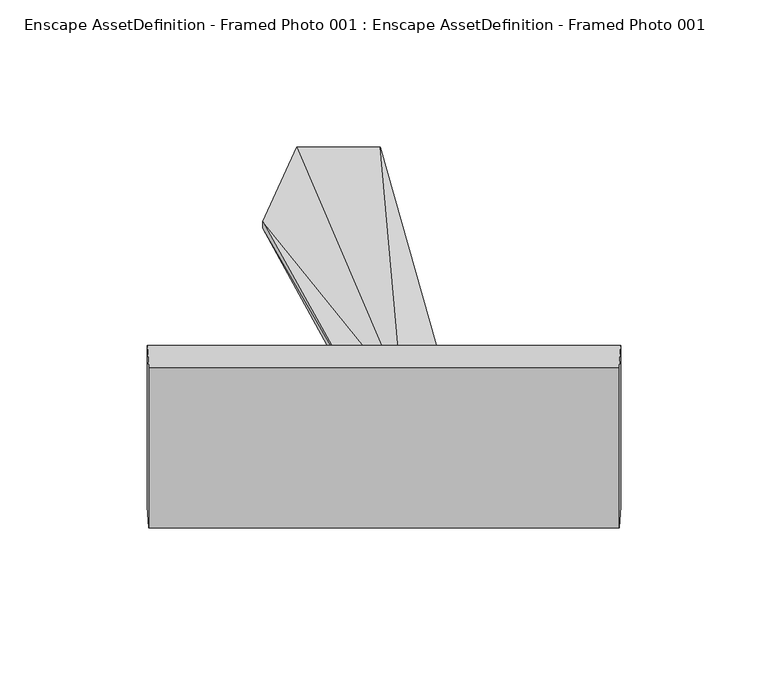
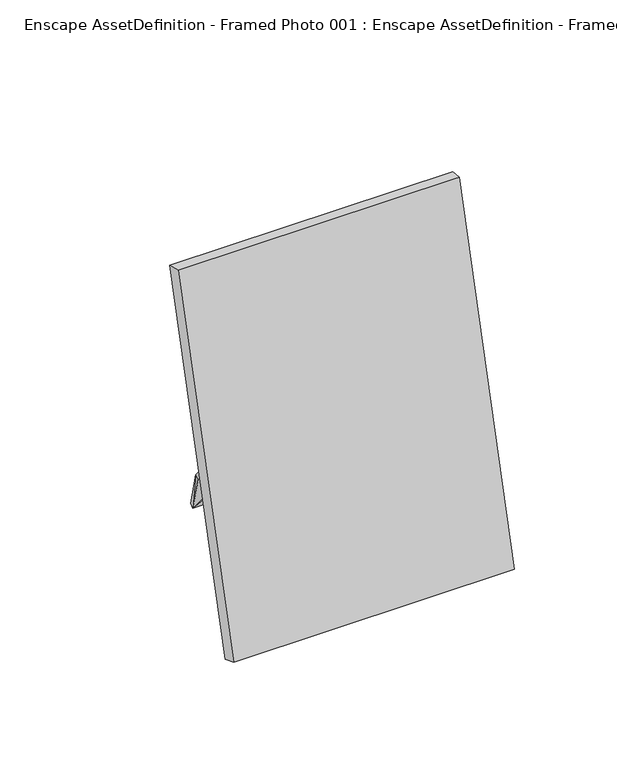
"""IFC4 building model written with IfcOpenShell, lengths in millimetres: geographic element geometry, Enscape AssetDefinition - Framed Photo 001 : Enscape AssetDefinition - Framed Photo 001."""

from ifc_helpers import new_model, si_unit, origin, place, context, project, spatial, triangles, source, transform, mapped, element, save


def enscape_assetdefinition_framed_photo_001_enscape_9ab4174a(model_context):
    return source(origin(), model_context, "Body", "Tessellation", [
        triangles([(-62.7642104, 1.9650782, -0.5257734), (-62.2417223, -5.3300287, 1.9683644), (97.6952904, 49.0546638, 204.926772), (-62.2417223, 49.0546638, 204.926772), (-62.7642104, 56.6159438, 203.4414702), (97.6952904, -5.3300287, 1.9683644), (98.2177694, 1.9650782, -0.5257734), (98.2177694, 56.6159438, 203.4414702), (16.4599964, 121.9794459, 0.0), (39.8733474, 37.8721206, 119.3374378), (8.7311259, 37.8721206, 130.4969765), (-12.0040649, 124.1416867, 1.4951684), (16.4599964, 124.1285425, 1.5148849), (23.9194044, 40.1066589, 126.7442713), (-12.0139231, 121.9794459, 0.0), (-23.5119324, 96.5747284, 36.7581397), (-23.5612254, 98.7534108, 38.227018), (9.1681751, 40.1329473, 131.7654129), (40.3202542, 40.0770823, 120.6978744), (23.485644, 37.8721206, 125.4298348)], [[11, 20, 14], [18, 17, 16], [17, 12, 15], [14, 20, 10], [9, 15, 12], [13, 19, 10], [16, 15, 20], [10, 20, 15], [14, 12, 17], [14, 19, 13], [14, 18, 11], [16, 11, 18], [15, 16, 17], [10, 19, 14], [12, 13, 9], [10, 9, 13], [20, 11, 16], [15, 9, 10], [17, 18, 14], [13, 12, 14], [5, 8, 7], [3, 8, 5], [6, 7, 8], [2, 1, 7], [4, 5, 1], [6, 3, 4], [7, 1, 5], [5, 4, 3], [8, 3, 6], [7, 6, 2], [1, 2, 4], [4, 2, 6]]),
    ])


if __name__ == "__main__":
    model = new_model("IFC4")
    model_context = context("Model", 3, world=origin())
    ifc_project = project(units=[si_unit("LENGTHUNIT", "METRE", prefix="MILLI")], contexts=[model_context])
    site = spatial("IfcSite", under=ifc_project)
    building = spatial("IfcBuilding", under=site)
    placement = place(None, origin())
    enscape_assetdefinition_framed_photo_001_enscape_shape = enscape_assetdefinition_framed_photo_001_enscape_9ab4174a(model_context)
    element("IfcGeographicElement", 1, ObjectType="Enscape AssetDefinition - Framed Photo 001 : Enscape AssetDefinition - Framed Photo 001", at=placement, inside=building, context=model_context, shape_type="MappedRepresentation", body=[
        mapped(enscape_assetdefinition_framed_photo_001_enscape_shape, transform((0.0, 0.0, 0.0), x_axis=(1.0, 0.0, 0.0), y_axis=(0.0, 1.0, 0.0), z_axis=(0.0, 0.0, 1.0))),
    ])
    save(model, "model.ifc")
